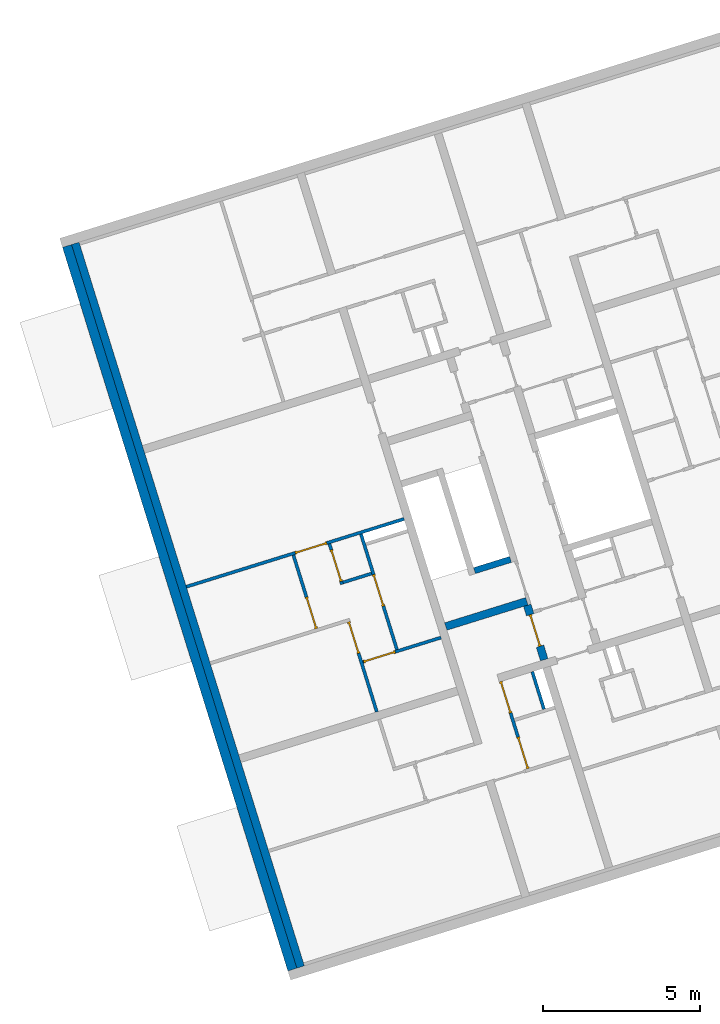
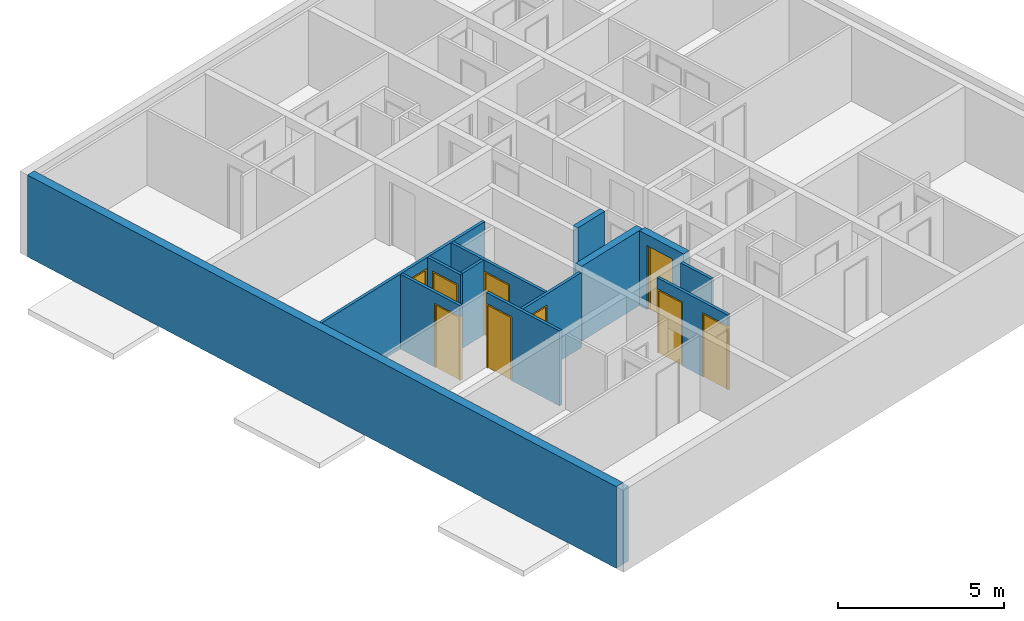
# One storey, part 2 of 9: 14 walls, 9 doors, 9 openings.
"""IFC4 building model written with IfcOpenShell, lengths in metres."""

from ifc_helpers import new_model, entity, si_unit, converted_unit, direction, frame, origin, place, context, subcontext, project, spatial, indexed_curve, outline, extrude, polygons, source, transform, mapped, material, constituent, constituent_set, type_object, type_shapes, element, fill, save


model = new_model("IFC4")

# Units and contexts
model_context = context("Model", 3, precision=1e-05, world=origin(), true_north=direction((6.12323399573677e-17, 1.0)))
body_context = subcontext(model_context, "Body", "Model", "MODEL_VIEW")
ifc_project = project(units=[si_unit("LENGTHUNIT", "METRE"), si_unit("AREAUNIT", "SQUARE_METRE"), converted_unit("PLANEANGLEUNIT", "DEGREE", entity("IfcPlaneAngleMeasure", 0.0174532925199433), si_unit("PLANEANGLEUNIT", "RADIAN"), dimensions=[0, 0, 0, 0, 0, 0, 0]), si_unit("VOLUMEUNIT", "CUBIC_METRE")], contexts=[model_context])

# Site, building, storey
site_placement = place(None, frame((13.1347999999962, 11.9886000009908, 0.0), z_axis=(0.0, 0.0, 1.0), x_axis=(0.954770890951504, 0.297342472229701, 0.0)))
site = spatial("IfcSite", under=ifc_project, at=site_placement, Name="Schiehaven", CompositionType="ELEMENT")
building_placement = place(site_placement, origin())
building = spatial("IfcBuilding", under=site, at=building_placement, Name="VORM huis", CompositionType="ELEMENT")
storey_placement = place(building_placement, frame((0.0, 0.0, 24.9)))
storey = spatial("IfcBuildingStorey", under=building, at=storey_placement, Name="08 achtste verdieping", CompositionType="ELEMENT", Elevation=24.9)

# Walls
ifc_material_1 = material(Name="beton_gewapend_ihw", Category="Miscellaneous")
wall_type_1 = type_object("IfcWallType", Name="Basic Wall:28_WA_skelet_wand 250mm_gen", PredefinedType="STANDARD")
wall_1_placement = place(storey_placement, frame((57.5, 5.0, 0.0), z_axis=(0.0, 0.0, 1.0), x_axis=(0.0, 1.0, 0.0)))
element("IfcWall", 1, at=wall_1_placement, inside=storey, type_object=wall_type_1, material=ifc_material_1, Name="Constructieve wand", ObjectType="Wand", PredefinedType="NOTDEFINED", context=body_context, shape_type="SweptSolid", body=[
    extrude(outline(indexed_curve([(24.1, 0.125), (-3.36234372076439e-16, 0.124999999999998), (3.36234372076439e-16, -0.124999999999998), (24.1, -0.124999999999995), (24.1, 0.125)], self_intersect=False)), origin(), (0.0, 0.0, 1.0), 2.75),
])
ifc_material_2 = material(Name="ntb_ntb_ntb", Category="Miscellaneous")
wall_type_2 = type_object("IfcWallType", Name="Basic Wall: 300mm_gen", PredefinedType="STANDARD")
wall_2_placement = place(storey_placement, frame((57.2249999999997, 29.0999999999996, 0.0), z_axis=(0.0, 0.0, 1.0), x_axis=(0.0, -1.0, 0.0)))
element("IfcWall", 2, at=wall_2_placement, inside=storey, type_object=wall_type_2, material=ifc_material_2, Name="Gevelwand", ObjectType="Wand", PredefinedType="NOTDEFINED", context=body_context, shape_type="SweptSolid", body=[
    extrude(outline(indexed_curve([(24.1, 0.150000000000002), (1.77178001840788e-15, 0.150000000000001), (-1.77178001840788e-15, -0.150000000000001), (24.1, -0.149999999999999), (24.1, 0.150000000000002)], self_intersect=False)), origin(), (0.0, 0.0, 1.0), 3.0),
])

# Wall, opening, door
wall_type_3 = type_object("IfcWallType", Name="Basic Wall:22_WA_afbouw_binnenwand 250mm_gen", PredefinedType="STANDARD")
wall_3_placement = place(storey_placement, frame((67.7999999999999, 13.8399999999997, 0.0), z_axis=(0.0, 0.0, 1.0), x_axis=(0.0, -1.0, 0.0)))
wall_3 = element("IfcWall", 3, at=wall_3_placement, inside=storey, type_object=wall_type_3, material=ifc_material_2, Name="Binnenwand", ObjectType="Wand", PredefinedType="NOTDEFINED", context=body_context, shape_type="Tessellation", body=[
    polygons([(0.0, -0.125000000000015, 0.0), (0.315000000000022, -0.125000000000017, 0.0), (0.315000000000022, -0.125000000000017, 2.34999999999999), (1.36500000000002, -0.125000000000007, 2.34999999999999), (1.36500000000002, -0.125000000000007, 0.0), (1.815, -0.12500000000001, 0.0), (1.815, -0.12500000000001, 2.75), (0.0, -0.125000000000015, 2.75), (0.315000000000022, 0.124999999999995, 2.34999999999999), (0.315000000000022, 0.124999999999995, 0.0), (0.215000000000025, 0.124999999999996, 0.0), (0.0, 0.124999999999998, 0.0), (0.0, 0.124999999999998, 2.75), (0.215000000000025, 0.124999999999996, 2.75), (0.315000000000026, 0.124999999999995, 2.75), (1.815, 0.125000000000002, 2.75), (1.815, 0.125000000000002, 0.0), (1.36500000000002, 0.125000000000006, 0.0), (1.36500000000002, 0.125000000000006, 2.34999999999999), (0.0, 0.0250000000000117, 0.0), (0.0, 0.0250000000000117, 2.75)], [[[1, 2, 3, 4, 5, 6, 7, 8]], [[9, 10, 11, 12, 13, 14, 15, 16, 17, 18, 19]], [[12, 11, 10, 2, 1, 20]], [[7, 6, 17, 16]], [[8, 7, 16, 15, 14, 13, 21]], [[5, 4, 19, 18]], [[3, 2, 10, 9]], [[4, 3, 9, 19]], [[1, 8, 21, 13, 12, 20]], [[18, 17, 6, 5]]], closed=True),
])
opening_1_placement = place(wall_3_placement, frame((0.31500000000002, -0.124999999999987, 0.0)))
opening_1 = element("IfcOpeningElement", 4, at=opening_1_placement, cuts=wall_3, Name="Woningtoegangsdeur", PredefinedType="OPENING", context=body_context, shape_type="SweptSolid", body=[
    extrude(outline(indexed_curve([(2.34999999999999, 1.05), (0.0, 1.05), (0.0, 1.35358391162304e-15), (2.34999999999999, 1.35358391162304e-15), (2.34999999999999, 1.05)], self_intersect=False)), frame((0.0, 0.0, 0.0), z_axis=(0.0, 1.0, 0.0), x_axis=(0.0, 0.0, 1.0)), (0.0, 0.0, 1.0), 0.25),
])
ifc_material_3 = material(Name="PD_a_binnenwandopeningen", Category="Miscellaneous")
ifc_constituent_1 = constituent(ifc_material_3, Name="PD_a_binnenwandopeningen", Category="Miscellaneous")
ifc_material_4 = material(Name="metaal_aluminium_ntb", Category="Miscellaneous")
ifc_constituent_2 = constituent(ifc_material_4, Name="metaal_aluminium_ntb", Category="Miscellaneous")
ifc_constituent_set_1 = constituent_set(constituents=[ifc_constituent_1, ifc_constituent_2])
ifc_constituent_3 = constituent(ifc_material_3, Name="PD_a_binnenwandopeningen", Category="Miscellaneous")
ifc_constituent_4 = constituent(ifc_material_4, Name="Panel", Category="Miscellaneous")
ifc_constituent_set_2 = constituent_set(constituents=[ifc_constituent_3, ifc_constituent_4])
door_type_1 = type_object("IfcDoorType", Name="32_DO_binnendeur enkel:woningtoegangsdeur", OperationType="REVOLVING", PredefinedType="DOOR", material=ifc_constituent_set_2)
shared_shape_1 = source(origin(), body_context, "Body", "SweptSolid", [
    extrude(outline(indexed_curve([(-1.16249999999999, -0.525000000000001), (1.18749999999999, -0.525), (1.18749999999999, 0.525000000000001), (-1.16249999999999, 0.525000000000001), (-1.16249999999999, 0.475), (1.13749999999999, 0.475), (1.13749999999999, -0.475), (-1.16249999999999, -0.475), (-1.16249999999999, -0.525000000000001)], self_intersect=False)), frame((0.525000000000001, 0.0749999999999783, 1.16249999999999), z_axis=(0.0, 1.0, 0.0), x_axis=(0.0, 0.0, 1.0)), (0.0, 0.0, 1.0), 0.1),
    extrude(outline(indexed_curve([(-0.025, -0.475), (0.025, -0.475), (0.025, 0.475), (-0.025, 0.475), (-0.025, -0.475)], self_intersect=False)), frame((0.525000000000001, 0.12499999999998, 0.0), z_axis=(0.0, 0.0, 1.0), x_axis=(0.0, 1.0, 0.0)), (0.0, 0.0, 1.0), 2.29999999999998),
])
type_shapes(door_type_1, [shared_shape_1])
door_1_placement = place(opening_1_placement, origin())
door_1 = element("IfcDoor", 5, at=door_1_placement, inside=storey, type_object=door_type_1, material=ifc_constituent_set_1, Name="Woningtoegangsdeur", ObjectType="Deur", OperationType="REVOLVING", OverallHeight=2.34999999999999, OverallWidth=1.05, PredefinedType="DOOR", context=body_context, shape_type="MappedRepresentation", body=[
    mapped(shared_shape_1, transform((0.0, 0.0, 0.0), scale=1.0)),
])
fill(opening_1, door_1)

# Wall
wall_4_placement = place(storey_placement, frame((65.1249999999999, 13.9649999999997, 0.0)))
element("IfcWall", 6, at=wall_4_placement, inside=storey, type_object=wall_type_3, material=ifc_material_2, Name="Binnenwand", ObjectType="Wand", PredefinedType="NOTDEFINED", context=body_context, shape_type="SweptSolid", body=[
    extrude(outline(indexed_curve([(2.70000000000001, 0.125000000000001), (1.53816777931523e-15, 0.125), (-1.53816777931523e-15, -0.125), (2.70000000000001, -0.124999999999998), (2.70000000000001, 0.125000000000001)], self_intersect=False)), origin(), (0.0, 0.0, 1.0), 2.75),
])

# Wall, openings, doors
wall_type_4 = type_object("IfcWallType", Name="Basic Wall:22_WA_afbouw_binnenwand 100mm_gen", PredefinedType="STANDARD")
wall_5_placement = place(storey_placement, frame((66.275, 11.7749999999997, 0.0), z_axis=(0.0, 0.0, 1.0), x_axis=(0.0, -1.0, 0.0)))
wall_5 = element("IfcWall", 7, at=wall_5_placement, inside=storey, type_object=wall_type_4, material=ifc_material_2, Name="Binnenwand", ObjectType="Wand", PredefinedType="NOTDEFINED", context=body_context, shape_type="Tessellation", body=[
    polygons([(2.90000000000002, -0.0500000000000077, 2.75), (2.16573425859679e-15, -0.050000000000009, 2.75), (2.16573425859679e-15, -0.050000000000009, 2.34999999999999), (1.05, -0.0500000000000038, 2.34999999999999), (1.05, -0.0500000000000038, 0.0), (1.85, -0.050000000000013, 0.0), (1.85, -0.050000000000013, 2.34999999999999), (2.90000000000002, -0.0500000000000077, 2.34999999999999), (2.16573425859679e-15, 0.0499999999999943, 2.75), (1.25000000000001, 0.0499999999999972, 2.75), (1.35000000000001, 0.049999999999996, 2.75), (2.90000000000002, 0.0499999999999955, 2.75), (2.90000000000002, 0.0499999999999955, 2.34999999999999), (1.85, 0.0499999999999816, 2.34999999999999), (1.85, 0.0499999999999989, 0.0), (1.35000000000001, 0.049999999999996, 0.0), (1.25000000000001, 0.0499999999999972, 0.0), (1.05, 0.0499999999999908, 0.0), (1.05, 0.0499999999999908, 2.34999999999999), (2.16573425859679e-15, 0.0499999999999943, 2.34999999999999)], [[[1, 2, 3, 4, 5, 6, 7, 8]], [[9, 10, 11, 12, 13, 14, 15, 16, 17, 18, 19, 20]], [[15, 6, 5, 18, 17, 16]], [[2, 1, 12, 11, 10, 9]], [[2, 9, 20, 3]], [[4, 19, 18, 5]], [[19, 4, 3, 20]], [[14, 7, 6, 15]], [[7, 14, 13, 8]], [[12, 1, 8, 13]]], closed=True),
])
opening_2_placement = place(wall_5_placement, frame((2.9, 0.0500000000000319, 0.0)))
opening_2 = element("IfcOpeningElement", 8, at=opening_2_placement, cuts=wall_5, Name="Binnendeur", PredefinedType="OPENING", context=body_context, shape_type="SweptSolid", body=[
    extrude(outline(indexed_curve([(2.34999999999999, 0.0), (2.34999999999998, 1.05), (0.0, 1.05), (2.16573425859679e-15, 0.0), (2.34999999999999, 0.0)], self_intersect=False)), frame((0.0, 0.0, 0.0), z_axis=(0.0, -1.0, 0.0), x_axis=(0.0, 0.0, 1.0)), (0.0, 0.0, 1.0), 0.1),
])
opening_3_placement = place(wall_5_placement, frame((1.05, 0.0500000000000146, 0.0)))
opening_3 = element("IfcOpeningElement", 9, at=opening_3_placement, cuts=wall_5, Name="Binnendeur", PredefinedType="OPENING", context=body_context, shape_type="SweptSolid", body=[
    extrude(outline(indexed_curve([(2.34999999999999, 1.35358391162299e-15), (2.34999999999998, 1.05), (0.0, 1.05), (2.16573425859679e-15, 1.35358391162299e-15), (2.34999999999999, 1.35358391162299e-15)], self_intersect=False)), frame((0.0, 0.0, 0.0), z_axis=(0.0, -1.0, 0.0), x_axis=(0.0, 0.0, 1.0)), (0.0, 0.0, 1.0), 0.1),
])
ifc_constituent_5 = constituent(ifc_material_3, Name="PD_a_binnenwandopeningen", Category="Miscellaneous")
ifc_constituent_6 = constituent(ifc_material_4, Name="metaal_aluminium_ntb", Category="Miscellaneous")
ifc_constituent_set_3 = constituent_set(constituents=[ifc_constituent_5, ifc_constituent_6])
ifc_constituent_7 = constituent(ifc_material_3, Name="PD_a_binnenwandopeningen", Category="Miscellaneous")
ifc_constituent_8 = constituent(ifc_material_4, Name="Panel", Category="Miscellaneous")
ifc_constituent_set_4 = constituent_set(constituents=[ifc_constituent_7, ifc_constituent_8])
door_type_2 = type_object("IfcDoorType", Name="32_DO_binnendeur enkel:binnendeur", OperationType="REVOLVING", PredefinedType="DOOR", material=ifc_constituent_set_4)
shared_shape_2 = source(origin(), body_context, "Body", "SweptSolid", [
    extrude(outline(indexed_curve([(0.475, -1.16249999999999), (0.525, -1.16249999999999), (0.525, 1.18749999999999), (-0.525, 1.18749999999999), (-0.525, -1.16249999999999), (-0.475, -1.16249999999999), (-0.475, 1.13749999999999), (0.475, 1.13749999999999), (0.475, -1.16249999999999)], self_intersect=False)), frame((0.525000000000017, 0.100000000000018, 1.16249999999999), z_axis=(0.0, -1.0, 0.0), x_axis=(1.0, 0.0, 0.0)), (0.0, 0.0, 1.0), 0.1),
    extrude(outline(indexed_curve([(-0.475, -0.025), (0.475, -0.025), (0.475, 0.025), (-0.475, 0.025), (-0.475, -0.025)], self_intersect=False)), frame((0.525000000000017, 0.0499999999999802, 0.0)), (0.0, 0.0, 1.0), 2.29999999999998),
])
type_shapes(door_type_2, [shared_shape_2])
door_2_placement = place(opening_2_placement, frame((0.0, 0.0, 0.0), z_axis=(0.0, 0.0, 1.0), x_axis=(-1.0, 0.0, 0.0)))
door_2 = element("IfcDoor", 10, at=door_2_placement, inside=storey, type_object=door_type_2, material=ifc_constituent_set_3, Name="Binnendeur", ObjectType="Deur", OperationType="REVOLVING", OverallHeight=2.34999999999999, OverallWidth=1.05, PredefinedType="DOOR", context=body_context, shape_type="MappedRepresentation", body=[
    mapped(shared_shape_2, transform((0.0, 0.0, 0.0), scale=1.0)),
])
fill(opening_2, door_2)
ifc_constituent_9 = constituent(ifc_material_3, Name="PD_a_binnenwandopeningen", Category="Miscellaneous")
ifc_constituent_10 = constituent(ifc_material_4, Name="metaal_aluminium_ntb", Category="Miscellaneous")
ifc_constituent_set_5 = constituent_set(constituents=[ifc_constituent_9, ifc_constituent_10])
door_3_placement = place(opening_3_placement, frame((0.0, 0.0, 0.0), z_axis=(0.0, 0.0, 1.0), x_axis=(-1.0, 0.0, 0.0)))
door_3 = element("IfcDoor", 11, at=door_3_placement, inside=storey, type_object=door_type_2, material=ifc_constituent_set_5, Name="Binnendeur", ObjectType="Deur", OperationType="REVOLVING", OverallHeight=2.34999999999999, OverallWidth=1.05, PredefinedType="DOOR", context=body_context, shape_type="MappedRepresentation", body=[
    mapped(shared_shape_2, transform((0.0, 0.0, 0.0), scale=1.0)),
])
fill(opening_3, door_3)

# Wall
wall_6_placement = place(storey_placement, frame((67.3250000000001, 11.7749999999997, 0.0), z_axis=(0.0, 0.0, 1.0), x_axis=(0.0, -1.0, 0.0)))
element("IfcWall", 12, at=wall_6_placement, inside=storey, type_object=wall_type_4, material=ifc_material_2, Name="Binnenwand", ObjectType="Wand", PredefinedType="NOTDEFINED", context=body_context, shape_type="SweptSolid", body=[
    extrude(outline(indexed_curve([(1.25000000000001, 0.0499999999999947), (-9.34348297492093e-16, 0.0499999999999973), (9.34348297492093e-16, -0.0499999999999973), (1.25000000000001, -0.0499999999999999), (1.25000000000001, 0.0499999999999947)], self_intersect=False)), origin(), (0.0, 0.0, 1.0), 2.75),
])

# Wall, opening, door
wall_7_placement = place(storey_placement, frame((64.8771642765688, 17.6249999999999, 0.0), z_axis=(0.0, 0.0, 1.0), x_axis=(-1.0, 0.0, 0.0)))
wall_7 = element("IfcWall", 13, at=wall_7_placement, inside=storey, type_object=wall_type_4, material=ifc_material_2, Name="Binnenwand", ObjectType="Wand", PredefinedType="NOTDEFINED", context=body_context, shape_type="Tessellation", body=[
    polygons([(-3.1584403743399e-15, -0.0500000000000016, 0.0), (2.57716427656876, -0.0500000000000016, 0.0), (2.57716427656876, -0.0500000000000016, 2.34999999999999), (3.62716427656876, -0.0500000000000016, 2.34999999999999), (3.62716427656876, -0.0500000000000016, 0.0), (7.25216427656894, -0.0499999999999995, 0.0), (7.25216427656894, -0.0499999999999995, 2.75), (-3.1584403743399e-15, -0.0500000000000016, 2.75), (2.57716427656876, 0.0499999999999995, 2.34999999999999), (2.57716427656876, 0.0499999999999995, 0.0), (2.55216427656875, 0.0499999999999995, 0.0), (2.45216427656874, 0.0499999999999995, 0.0), (1.50216427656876, 0.0499999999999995, 0.0), (1.40216427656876, 0.0499999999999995, 0.0), (-3.14057083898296e-15, 0.0499999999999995, 0.0), (-3.14057083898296e-15, 0.0499999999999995, 2.75), (1.40216427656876, 0.0499999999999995, 2.75), (1.50216427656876, 0.0499999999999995, 2.75), (2.45216427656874, 0.0499999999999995, 2.75), (2.55216427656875, 0.0499999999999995, 2.75), (3.65216427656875, 0.0499999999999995, 2.75), (3.75216427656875, 0.0499999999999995, 2.75), (7.25216427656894, 0.0500000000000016, 2.75), (7.25216427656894, 0.0500000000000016, 0.0), (3.75216427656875, 0.0499999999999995, 0.0), (3.65216427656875, 0.0499999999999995, 0.0), (3.62716427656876, 0.0499999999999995, 0.0), (3.62716427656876, 0.0499999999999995, 2.34999999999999)], [[[1, 2, 3, 4, 5, 6, 7, 8]], [[9, 10, 11, 12, 13, 14, 15, 16, 17, 18, 19, 20, 21, 22, 23, 24, 25, 26, 27, 28]], [[15, 14, 13, 12, 11, 10, 2, 1]], [[7, 6, 24, 23]], [[8, 7, 23, 22, 21, 20, 19, 18, 17, 16]], [[1, 8, 16, 15]], [[5, 4, 28, 27]], [[3, 2, 10, 9]], [[4, 3, 9, 28]], [[27, 26, 25, 24, 6, 5]]], closed=True),
])
opening_4_placement = place(wall_7_placement, frame((3.62716427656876, 0.0499999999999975, 0.0)))
opening_4 = element("IfcOpeningElement", 14, at=opening_4_placement, cuts=wall_7, Name="Binnendeur", PredefinedType="OPENING", context=body_context, shape_type="SweptSolid", body=[
    extrude(outline(indexed_curve([(2.34999999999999, 3.47701286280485e-32), (2.34999999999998, 1.05), (0.0, 1.05), (2.16573425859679e-15, 3.47701286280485e-32), (2.34999999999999, 3.47701286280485e-32)], self_intersect=False)), frame((0.0, 0.0, 0.0), z_axis=(0.0, -1.0, 0.0), x_axis=(0.0, 0.0, 1.0)), (0.0, 0.0, 1.0), 0.1),
])
ifc_constituent_11 = constituent(ifc_material_3, Name="PD_a_binnenwandopeningen", Category="Miscellaneous")
ifc_constituent_12 = constituent(ifc_material_4, Name="metaal_aluminium_ntb", Category="Miscellaneous")
ifc_constituent_set_6 = constituent_set(constituents=[ifc_constituent_11, ifc_constituent_12])
door_4_placement = place(opening_4_placement, frame((0.0, 0.0, 0.0), z_axis=(0.0, 0.0, 1.0), x_axis=(-1.0, 0.0, 0.0)))
door_4 = element("IfcDoor", 15, at=door_4_placement, inside=storey, type_object=door_type_2, material=ifc_constituent_set_6, Name="Binnendeur", ObjectType="Deur", OperationType="REVOLVING", OverallHeight=2.34999999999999, OverallWidth=1.05, PredefinedType="DOOR", context=body_context, shape_type="MappedRepresentation", body=[
    mapped(shared_shape_2, transform((0.0, 0.0, 0.0), scale=1.0)),
])
fill(opening_4, door_4)

wall_8_placement = place(storey_placement, frame((62.375, 16.2249999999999, 0.0), z_axis=(0.0, 0.0, 1.0), x_axis=(0.0, 1.0, 0.0)))
wall_8 = element("IfcWall", 16, at=wall_8_placement, inside=storey, type_object=wall_type_4, material=ifc_material_2, Name="Binnenwand", ObjectType="Wand", PredefinedType="NOTDEFINED", context=body_context, shape_type="Tessellation", body=[
    polygons([(1.15, -0.0500000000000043, 2.34999999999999), (1.15, -0.0500000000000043, 0.0), (1.35, -0.0500000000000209, 0.0), (1.35, -0.0500000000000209, 2.75), (0.100000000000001, -0.050000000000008, 2.75), (0.0, -0.0500000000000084, 2.75), (0.0, -0.0500000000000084, 0.0), (0.0999999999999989, -0.050000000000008, 0.0), (0.0999999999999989, -0.050000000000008, 2.34999999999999), (1.35, 0.049999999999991, 0.0), (1.15, 0.0500000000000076, 0.0), (1.15, 0.0500000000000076, 2.34999999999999), (0.0999999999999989, 0.0500000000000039, 2.34999999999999), (0.0999999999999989, 0.0500000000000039, 0.0), (0.0, 0.0500000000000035, 0.0), (0.0, 0.0500000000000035, 2.75), (1.35, 0.049999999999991, 2.75)], [[[1, 2, 3, 4, 5, 6, 7, 8, 9]], [[10, 11, 12, 13, 14, 15, 16, 17]], [[8, 7, 15, 14]], [[6, 5, 4, 17, 16]], [[14, 13, 9, 8]], [[12, 11, 2, 1]], [[13, 12, 1, 9]], [[7, 6, 16, 15]], [[4, 3, 10, 17]], [[3, 2, 11, 10]]], closed=True),
])
opening_5_placement = place(wall_8_placement, frame((0.0999999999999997, -0.050000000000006, 0.0)))
opening_5 = element("IfcOpeningElement", 17, at=opening_5_placement, cuts=wall_8, Name="Binnendeur", PredefinedType="OPENING", context=body_context, shape_type="SweptSolid", body=[
    extrude(outline(indexed_curve([(2.34999999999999, 1.35358391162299e-15), (2.34999999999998, 1.05), (0.0, 1.05), (2.16573425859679e-15, 1.35358391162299e-15), (2.34999999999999, 1.35358391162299e-15)], self_intersect=False)), frame((0.0, 0.0, 0.0), z_axis=(0.0, 1.0, 0.0), x_axis=(0.0, 0.0, 1.0)), (0.0, 0.0, 1.0), 0.1),
])
ifc_constituent_13 = constituent(ifc_material_3, Name="PD_a_binnenwandopeningen", Category="Miscellaneous")
ifc_constituent_14 = constituent(ifc_material_4, Name="metaal_aluminium_ntb", Category="Miscellaneous")
ifc_constituent_set_7 = constituent_set(constituents=[ifc_constituent_13, ifc_constituent_14])
door_5_placement = place(opening_5_placement, origin())
door_5 = element("IfcDoor", 18, at=door_5_placement, inside=storey, type_object=door_type_2, material=ifc_constituent_set_7, Name="Binnendeur", ObjectType="Deur", OperationType="REVOLVING", OverallHeight=2.34999999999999, OverallWidth=1.05, PredefinedType="DOOR", context=body_context, shape_type="MappedRepresentation", body=[
    mapped(shared_shape_2, transform((0.0, 0.0, 0.0), scale=1.0)),
])
fill(opening_5, door_5)

# Wall
wall_9_placement = place(storey_placement, frame((63.375, 16.2749999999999, 0.0), z_axis=(0.0, 0.0, 1.0), x_axis=(-1.0, 0.0, 0.0)))
element("IfcWall", 19, at=wall_9_placement, inside=storey, type_object=wall_type_4, material=ifc_material_2, Name="Binnenwand", ObjectType="Wand", PredefinedType="NOTDEFINED", context=body_context, shape_type="SweptSolid", body=[
    extrude(outline(indexed_curve([(0.949999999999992, 0.0499999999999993), (8.93476767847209e-18, 0.0499999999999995), (-8.93476767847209e-18, -0.0499999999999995), (0.949999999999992, -0.0499999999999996), (0.949999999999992, 0.0499999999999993)], self_intersect=False)), origin(), (0.0, 0.0, 1.0), 2.75),
])

# Wall, opening, door
wall_10_placement = place(storey_placement, frame((61.175, 15.1249999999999, 0.0), z_axis=(0.0, 0.0, 1.0), x_axis=(0.0, 1.0, 0.0)))
wall_10 = element("IfcWall", 20, at=wall_10_placement, inside=storey, type_object=wall_type_4, material=ifc_material_2, Name="Binnenwand", ObjectType="Wand", PredefinedType="NOTDEFINED", context=body_context, shape_type="Tessellation", body=[
    polygons([(2.45, -0.0500000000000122, 2.75), (-2.16573425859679e-15, -0.0500000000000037, 2.75), (-2.16573425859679e-15, -0.0500000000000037, 2.34999999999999), (1.05, -0.0499999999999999, 2.34999999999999), (1.05, -0.0499999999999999, 0.0), (2.45, -0.0500000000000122, 0.0), (-2.16573425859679e-15, 0.0500000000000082, 2.75), (2.45, 0.0499999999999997, 2.75), (2.45, 0.0499999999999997, 0.0), (1.05, 0.050000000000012, 0.0), (1.05, 0.050000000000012, 2.34999999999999), (-2.16573425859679e-15, 0.0500000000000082, 2.34999999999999)], [[[1, 2, 3, 4, 5, 6]], [[7, 8, 9, 10, 11, 12]], [[9, 6, 5, 10]], [[2, 1, 8, 7]], [[4, 11, 10, 5]], [[11, 4, 3, 12]], [[2, 7, 12, 3]], [[1, 6, 9, 8]]], closed=True),
])
opening_6_placement = place(wall_10_placement, frame((1.05000000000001, 0.0499999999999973, 0.0)))
opening_6 = element("IfcOpeningElement", 21, at=opening_6_placement, cuts=wall_10, Name="Binnendeur", PredefinedType="OPENING", context=body_context, shape_type="SweptSolid", body=[
    extrude(outline(indexed_curve([(2.34999999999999, 1.35358391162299e-15), (2.34999999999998, 1.05), (0.0, 1.05), (2.16573425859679e-15, 1.35358391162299e-15), (2.34999999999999, 1.35358391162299e-15)], self_intersect=False)), frame((0.0, 0.0, 0.0), z_axis=(0.0, -1.0, 0.0), x_axis=(0.0, 0.0, 1.0)), (0.0, 0.0, 1.0), 0.1),
])
ifc_constituent_15 = constituent(ifc_material_3, Name="PD_a_binnenwandopeningen", Category="Miscellaneous")
ifc_constituent_16 = constituent(ifc_material_4, Name="metaal_aluminium_ntb", Category="Miscellaneous")
ifc_constituent_set_8 = constituent_set(constituents=[ifc_constituent_15, ifc_constituent_16])
door_6_placement = place(opening_6_placement, frame((0.0, 0.0, 0.0), z_axis=(0.0, 0.0, 1.0), x_axis=(-1.0, 0.0, 0.0)))
door_6 = element("IfcDoor", 22, at=door_6_placement, inside=storey, type_object=door_type_2, material=ifc_constituent_set_8, Name="Binnendeur", ObjectType="Deur", OperationType="REVOLVING", OverallHeight=2.34999999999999, OverallWidth=1.05, PredefinedType="DOOR", context=body_context, shape_type="MappedRepresentation", body=[
    mapped(shared_shape_2, transform((0.0, 0.0, 0.0), scale=1.0)),
])
fill(opening_6, door_6)

wall_11_placement = place(storey_placement, frame((62.225, 12.0249999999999, 0.0), z_axis=(0.0, 0.0, 1.0), x_axis=(0.0, 1.0, 0.0)))
wall_11 = element("IfcWall", 23, at=wall_11_placement, inside=storey, type_object=wall_type_4, material=ifc_material_2, Name="Binnenwand", ObjectType="Wand", PredefinedType="NOTDEFINED", context=body_context, shape_type="Tessellation", body=[
    polygons([(3.00000000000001, -0.0500000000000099, 2.75), (1.70000000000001, -0.0500000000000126, 2.75), (1.60000000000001, -0.0500000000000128, 2.75), (0.0, -0.0500000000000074, 2.75), (0.0, -0.0500000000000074, 0.0), (1.60000000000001, -0.0500000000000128, 0.0), (1.70000000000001, -0.0500000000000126, 0.0), (1.95000000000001, -0.0500000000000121, 0.0), (1.95000000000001, -0.0500000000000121, 2.34999999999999), (3.00000000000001, -0.0500000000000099, 2.34999999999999), (0.0, 0.0499999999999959, 2.75), (3.00000000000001, 0.0499999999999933, 2.75), (3.00000000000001, 0.0499999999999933, 2.34999999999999), (1.95000000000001, 0.0499999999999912, 2.34999999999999), (1.95000000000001, 0.0499999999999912, 0.0), (0.0, 0.0499999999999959, 0.0)], [[[1, 2, 3, 4, 5, 6, 7, 8, 9, 10]], [[11, 12, 13, 14, 15, 16]], [[5, 16, 15, 8, 7, 6]], [[4, 3, 2, 1, 12, 11]], [[5, 4, 11, 16]], [[14, 9, 8, 15]], [[9, 14, 13, 10]], [[12, 1, 10, 13]]], closed=True),
])
opening_7_placement = place(wall_11_placement, frame((3.0, 0.04999999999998, 0.0)))
opening_7 = element("IfcOpeningElement", 24, at=opening_7_placement, cuts=wall_11, Name="Binnendeur", PredefinedType="OPENING", context=body_context, shape_type="SweptSolid", body=[
    extrude(outline(indexed_curve([(2.34999999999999, 1.08286712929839e-15), (2.34999999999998, 1.05), (0.0, 1.05), (2.16573425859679e-15, 1.08286712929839e-15), (2.34999999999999, 1.08286712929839e-15)], self_intersect=False)), frame((0.0, 0.0, 0.0), z_axis=(0.0, -1.0, 0.0), x_axis=(0.0, 0.0, 1.0)), (0.0, 0.0, 1.0), 0.1),
])
ifc_constituent_17 = constituent(ifc_material_3, Name="PD_a_binnenwandopeningen", Category="Miscellaneous")
ifc_constituent_18 = constituent(ifc_material_4, Name="metaal_aluminium_ntb", Category="Miscellaneous")
ifc_constituent_set_9 = constituent_set(constituents=[ifc_constituent_17, ifc_constituent_18])
door_7_placement = place(opening_7_placement, frame((0.0, 0.0, 0.0), z_axis=(0.0, 0.0, 1.0), x_axis=(-1.0, 0.0, 0.0)))
door_7 = element("IfcDoor", 25, at=door_7_placement, inside=storey, type_object=door_type_2, material=ifc_constituent_set_9, Name="Binnendeur", ObjectType="Deur", OperationType="REVOLVING", OverallHeight=2.34999999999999, OverallWidth=1.05, PredefinedType="DOOR", context=body_context, shape_type="MappedRepresentation", body=[
    mapped(shared_shape_2, transform((0.0, 0.0, 0.0), scale=1.0)),
])
fill(opening_7, door_7)

wall_12_placement = place(storey_placement, frame((62.275, 13.6749999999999, 0.0)))
wall_12 = element("IfcWall", 26, at=wall_12_placement, inside=storey, type_object=wall_type_4, material=ifc_material_2, Name="Binnenwand", ObjectType="Wand", PredefinedType="NOTDEFINED", context=body_context, shape_type="Tessellation", body=[
    polygons([(1.07499999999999, -0.0499999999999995, 2.34999999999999), (1.07499999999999, -0.0499999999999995, 0.0), (2.59999999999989, -0.0499999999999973, 0.0), (2.59999999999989, -0.0499999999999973, 2.75), (4.21040811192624e-16, -0.0499999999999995, 2.75), (4.21040811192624e-16, -0.0499999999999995, 0.0), (0.0249999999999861, -0.0499999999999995, 0.0), (0.0249999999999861, -0.0499999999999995, 2.34999999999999), (2.59999999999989, 0.0499999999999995, 0.0), (1.2, 0.0500000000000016, 0.0), (1.09999999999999, 0.0500000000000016, 0.0), (1.07499999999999, 0.0500000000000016, 0.0), (1.07499999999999, 0.0500000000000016, 2.34999999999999), (0.0249999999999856, 0.0500000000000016, 2.34999999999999), (0.0249999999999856, 0.0500000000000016, 0.0), (-8.45184949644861e-17, 0.0500000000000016, 0.0), (-8.45184949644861e-17, 0.0500000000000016, 2.75), (1.09999999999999, 0.0500000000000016, 2.75), (1.2, 0.0500000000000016, 2.75), (2.59999999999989, 0.0499999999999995, 2.75)], [[[1, 2, 3, 4, 5, 6, 7, 8]], [[9, 10, 11, 12, 13, 14, 15, 16, 17, 18, 19, 20]], [[7, 6, 16, 15]], [[4, 3, 9, 20]], [[5, 4, 20, 19, 18, 17]], [[15, 14, 8, 7]], [[13, 12, 2, 1]], [[14, 13, 1, 8]], [[6, 5, 17, 16]], [[3, 2, 12, 11, 10, 9]]], closed=True),
])
opening_8_placement = place(wall_12_placement, frame((0.0249999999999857, -0.0499999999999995, 0.0)))
opening_8 = element("IfcOpeningElement", 27, at=opening_8_placement, cuts=wall_12, Name="Binnendeur", PredefinedType="OPENING", context=body_context, shape_type="SweptSolid", body=[
    extrude(outline(indexed_curve([(2.34999999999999, 0.0), (2.34999999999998, 1.05), (0.0, 1.05), (2.16573425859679e-15, 0.0), (2.34999999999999, 0.0)], self_intersect=False)), frame((0.0, 0.0, 0.0), z_axis=(0.0, 1.0, 0.0), x_axis=(0.0, 0.0, 1.0)), (0.0, 0.0, 1.0), 0.1),
])
ifc_constituent_19 = constituent(ifc_material_3, Name="PD_a_binnenwandopeningen", Category="Miscellaneous")
ifc_constituent_20 = constituent(ifc_material_4, Name="metaal_aluminium_ntb", Category="Miscellaneous")
ifc_constituent_set_10 = constituent_set(constituents=[ifc_constituent_19, ifc_constituent_20])
door_8_placement = place(opening_8_placement, origin())
door_8 = element("IfcDoor", 28, at=door_8_placement, inside=storey, type_object=door_type_2, material=ifc_constituent_set_10, Name="Binnendeur", ObjectType="Deur", OperationType="REVOLVING", OverallHeight=2.34999999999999, OverallWidth=1.05, PredefinedType="DOOR", context=body_context, shape_type="MappedRepresentation", body=[
    mapped(shared_shape_2, transform((0.0, 0.0, 0.0), scale=1.0)),
])
fill(opening_8, door_8)

wall_13_placement = place(storey_placement, frame((63.425, 13.7249999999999, 0.0), z_axis=(0.0, 0.0, 1.0), x_axis=(0.0, 1.0, 0.0)))
wall_13 = element("IfcWall", 29, at=wall_13_placement, inside=storey, type_object=wall_type_4, material=ifc_material_2, Name="Binnenwand", ObjectType="Wand", PredefinedType="NOTDEFINED", context=body_context, shape_type="Tessellation", body=[
    polygons([(2.50000000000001, -0.0500000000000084, 2.34999999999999), (2.50000000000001, -0.0500000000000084, 0.0), (3.45000000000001, -0.050000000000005, 0.0), (3.55000000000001, -0.0500000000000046, 0.0), (3.85000000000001, -0.0500000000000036, 0.0), (3.85000000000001, -0.0500000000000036, 2.75), (3.55000000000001, -0.0500000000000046, 2.75), (3.45000000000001, -0.050000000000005, 2.75), (0.0, -0.0500000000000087, 2.75), (0.0, -0.0500000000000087, 0.0), (1.45000000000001, -0.0500000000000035, 0.0), (1.45000000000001, -0.0500000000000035, 2.34999999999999), (3.85000000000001, 0.0499999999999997, 0.0), (2.60000000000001, 0.0499999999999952, 0.0), (2.50000000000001, 0.0499999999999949, 0.0), (2.50000000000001, 0.0499999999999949, 2.34999999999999), (1.45000000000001, 0.0499999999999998, 2.34999999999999), (1.45000000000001, 0.0499999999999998, 0.0), (0.0, 0.0499999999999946, 0.0), (0.0, 0.0499999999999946, 2.75), (2.50000000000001, 0.0499999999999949, 2.75), (2.60000000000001, 0.0499999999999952, 2.75), (3.85000000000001, 0.0499999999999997, 2.75)], [[[1, 2, 3, 4, 5, 6, 7, 8, 9, 10, 11, 12]], [[13, 14, 15, 16, 17, 18, 19, 20, 21, 22, 23]], [[11, 10, 19, 18]], [[9, 8, 7, 6, 23, 22, 21, 20]], [[18, 17, 12, 11]], [[16, 15, 2, 1]], [[17, 16, 1, 12]], [[10, 9, 20, 19]], [[6, 5, 13, 23]], [[5, 4, 3, 2, 15, 14, 13]]], closed=True),
])
opening_9_placement = place(wall_13_placement, frame((1.45000000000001, -0.0499999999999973, 0.0)))
opening_9 = element("IfcOpeningElement", 30, at=opening_9_placement, cuts=wall_13, Name="Binnendeur", PredefinedType="OPENING", context=body_context, shape_type="SweptSolid", body=[
    extrude(outline(indexed_curve([(2.34999999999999, 1.35358391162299e-15), (2.34999999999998, 1.05), (0.0, 1.05), (2.16573425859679e-15, 1.35358391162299e-15), (2.34999999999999, 1.35358391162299e-15)], self_intersect=False)), frame((0.0, 0.0, 0.0), z_axis=(0.0, 1.0, 0.0), x_axis=(0.0, 0.0, 1.0)), (0.0, 0.0, 1.0), 0.1),
])
ifc_constituent_21 = constituent(ifc_material_3, Name="PD_a_binnenwandopeningen", Category="Miscellaneous")
ifc_constituent_22 = constituent(ifc_material_4, Name="metaal_aluminium_ntb", Category="Miscellaneous")
ifc_constituent_set_11 = constituent_set(constituents=[ifc_constituent_21, ifc_constituent_22])
door_9_placement = place(opening_9_placement, origin())
door_9 = element("IfcDoor", 31, at=door_9_placement, inside=storey, type_object=door_type_2, material=ifc_constituent_set_11, Name="Binnendeur", ObjectType="Deur", OperationType="REVOLVING", OverallHeight=2.34999999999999, OverallWidth=1.05, PredefinedType="DOOR", context=body_context, shape_type="MappedRepresentation", body=[
    mapped(shared_shape_2, transform((0.0, 0.0, 0.0), scale=1.0)),
])
fill(opening_9, door_9)

# Wall
wall_type_5 = type_object("IfcWallType", Name="Basic Wall:22_WA_afbouw_binnenwand 200mm_gen", PredefinedType="STANDARD")
wall_14_placement = place(storey_placement, frame((66.5250000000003, 15.3899999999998, 0.0)))
element("IfcWall", 32, at=wall_14_placement, inside=storey, type_object=wall_type_5, material=ifc_material_2, Name="Binnenwand", ObjectType="Wand", PredefinedType="NOTDEFINED", context=body_context, shape_type="SweptSolid", body=[
    extrude(outline(indexed_curve([(1.2, 0.100000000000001), (-7.02058589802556e-16, 0.100000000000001), (7.02058589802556e-16, -0.100000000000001), (1.20000000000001, -0.100000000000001), (1.2, 0.100000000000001)], self_intersect=False)), origin(), (0.0, 0.0, 1.0), 2.75),
])

save(model, "model.ifc")
